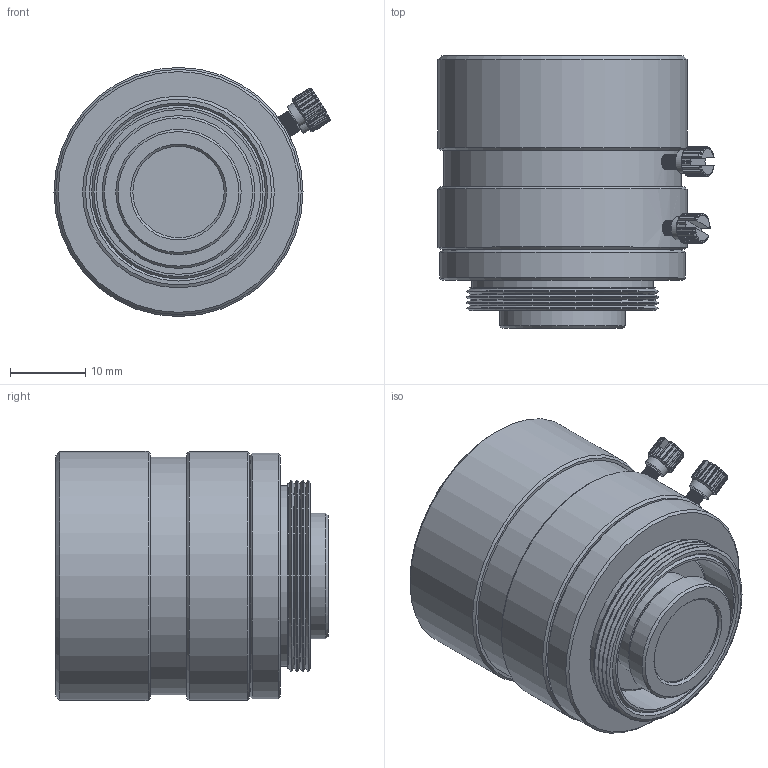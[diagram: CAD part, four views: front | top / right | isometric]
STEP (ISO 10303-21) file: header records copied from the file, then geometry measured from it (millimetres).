
FILE_DESCRIPTION(/* description */ ('TCL 3520 5MP'),/* implementation_level */ '2;1');
FILE_NAME(/* name */ 'D:\1_Konstruktion\1_KUNDEN\TIS\199-15_Objektive_Step-Dateien für Endkundem\C-Objektive (8x)\Lens_TCL 3520 5MP.stp',/* time_stamp */ '2016-01-28T19:59:54+01:00',/* author */ ('khw'),/* organization */ (''),/* preprocessor_version */ 'ST-DEVELOPER v15.2',/* originating_system */ 'Autodesk Inventor 2014',/* authorisation */ '6767,5 mm^3');
FILE_SCHEMA (('AUTOMOTIVE_DESIGN { 1 0 10303 214 3 1 1 }'));
Length unit declared in the file: millimetre
Products named in the file (1): Lens_TCL 3520 5MP
Bounding box: 36.58 x 36.05 x 33 mm (x, y, z)
Volume: 13426.9 mm3; surface area: 15192.6 mm2
Topology: 2 solids, 3 shells, 757 faces, 2368 edges, 1295 vertices
Faces by surface type: bspline 319, cylinder 229, plane 143, cone 60, torus 4, sphere 2
Full cylindrical faces by diameter (mm): 2 x37, 3.1 x2, 12.1 x1, 13.935 x1, 14.435 x1, 16.607 x1, 17.335 x1, 19.12 x1, 19.72 x1, 20.235 x1, 20.5 x1, 21.12 x1, 21.8 x1, 22.48 x1, 22.52 x1, 24 x1, 24.391 x1, 24.6 x1, 25.4 x4, 25.935 x16, 26 x1, 26.4 x1, 26.48 x2, 27.2 x1, 28 x1, 28.4 x6, 28.8 x1, 29 x1, 29.4 x1, 30 x5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
Entity records: 65369 total; most frequent: CARTESIAN_POINT 47830, ORIENTED_EDGE 4050, DIRECTION 2921, EDGE_CURVE 2025, AXIS2_PLACEMENT_3D 1291, VERTEX_POINT 1235, CIRCLE 881, EDGE_LOOP 864
